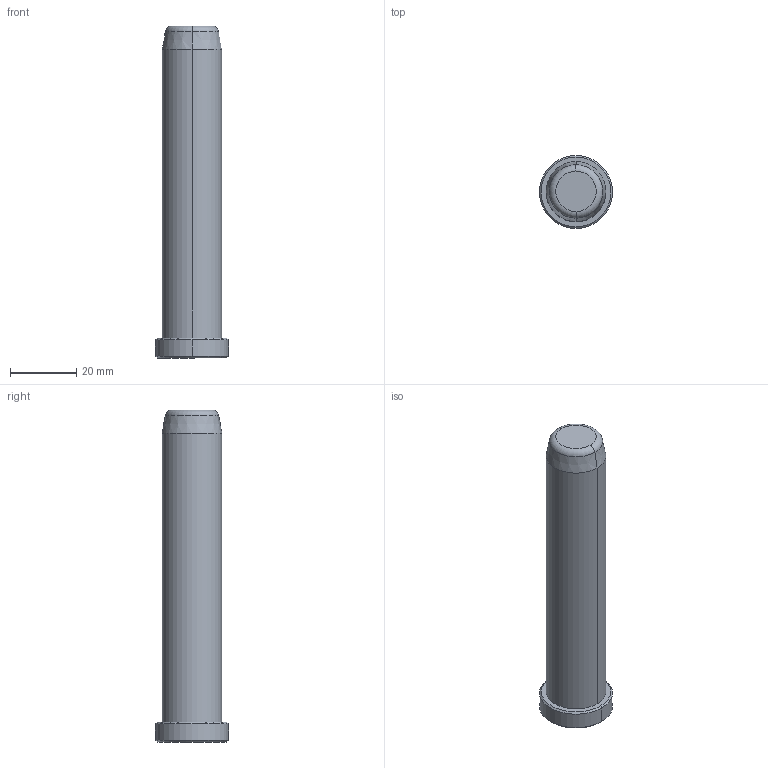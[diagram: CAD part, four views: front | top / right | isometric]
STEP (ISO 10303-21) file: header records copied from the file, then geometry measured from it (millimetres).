
FILE_DESCRIPTION((''),'2;1');
FILE_NAME('B81818100','2018-01-06T',('MANU'),(''),'PRO/ENGINEER BY PARAMETRIC TECHNOLOGY CORPORATION, 2012130','PRO/ENGINEER BY PARAMETRIC TECHNOLOGY CORPORATION, 2012130','');
FILE_SCHEMA(('CONFIG_CONTROL_DESIGN'));
Length unit declared in the file: millimetre
Products named in the file (1): B81818100
Bounding box: 22 x 22 x 100 mm (x, y, z)
Volume: 25924.3 mm3; surface area: 6334 mm2
Topology: 1 solids, 1 shells, 15 faces, 28 edges, 16 vertices
Faces by surface type: cone 6, cylinder 4, plane 3, torus 2
Entity records: 414 total; most frequent: DIRECTION 76, CARTESIAN_POINT 59, ORIENTED_EDGE 56, AXIS2_PLACEMENT_3D 33, EDGE_CURVE 28, CIRCLE 18, VERTEX_POINT 16, EDGE_LOOP 16
